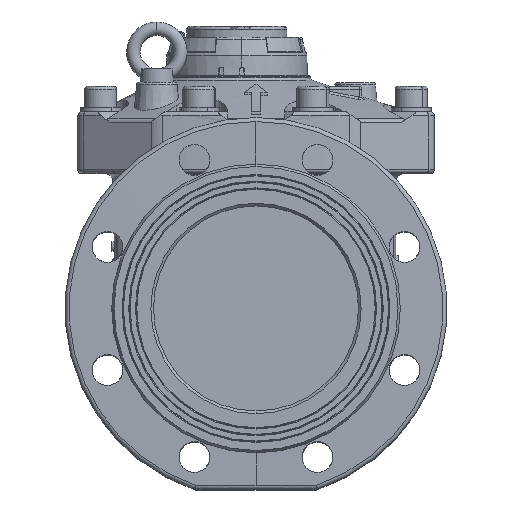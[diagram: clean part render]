
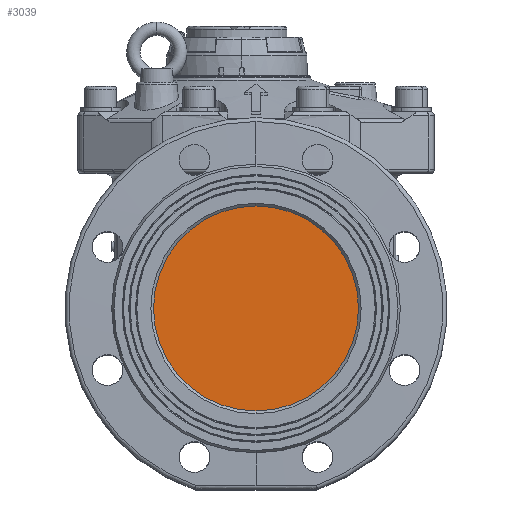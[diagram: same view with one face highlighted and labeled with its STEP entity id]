
A CAD part, top view. The second image highlights one B-rep face of the part: STEP entity #3039.
In plain terms, the highlighted planar face has unit normal (0, 0, 1).
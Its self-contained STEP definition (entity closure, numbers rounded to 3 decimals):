
#603 = CARTESIAN_POINT ( 'NONE',  ( 1.5, 0., 148. ) ) ;
#3039 = ADVANCED_FACE ( 'NONE', ( #6983 ), #69881, .F. ) ;
#6983 = FACE_OUTER_BOUND ( 'NONE', #16235, .T. ) ;
#11892 = DIRECTION ( 'NONE',  ( 0., -1., 0. ) ) ;
#16235 = EDGE_LOOP ( 'NONE', ( #77809, #99914 ) ) ;
#19161 = AXIS2_PLACEMENT_3D ( 'NONE', #30292, #84939, #77679 ) ;
#22711 = CARTESIAN_POINT ( 'NONE',  ( 1.5, 76.5, 148. ) ) ;
#30292 = CARTESIAN_POINT ( 'NONE',  ( 1.5, 0., 148. ) ) ;
#33969 = EDGE_CURVE ( 'NONE', #54238, #82753, #102473, .T. ) ;
#43390 = EDGE_CURVE ( 'NONE', #82753, #54238, #61653, .T. ) ;
#46329 = DIRECTION ( 'NONE',  ( 0., 0., 1. ) ) ;
#54238 = VERTEX_POINT ( 'NONE', #83846 ) ;
#61653 = CIRCLE ( 'NONE', #88236, 76.5 ) ;
#64033 = DIRECTION ( 'NONE',  ( 0., 0., 1. ) ) ;
#69881 = PLANE ( 'NONE',  #19161 ) ;
#70226 = CARTESIAN_POINT ( 'NONE',  ( 1.5, 0., 148. ) ) ;
#77679 = DIRECTION ( 'NONE',  ( 0., 1., 0. ) ) ;
#77809 = ORIENTED_EDGE ( 'NONE', *, *, #33969, .T. ) ;
#82753 = VERTEX_POINT ( 'NONE', #22711 ) ;
#83846 = CARTESIAN_POINT ( 'NONE',  ( 1.5, -76.5, 148. ) ) ;
#84939 = DIRECTION ( 'NONE',  ( 0., 0., -1. ) ) ;
#88236 = AXIS2_PLACEMENT_3D ( 'NONE', #70226, #46329, #101896 ) ;
#99914 = ORIENTED_EDGE ( 'NONE', *, *, #43390, .T. ) ;
#101896 = DIRECTION ( 'NONE',  ( 0., -1., 0. ) ) ;
#102473 = CIRCLE ( 'NONE', #102542, 76.5 ) ;
#102542 = AXIS2_PLACEMENT_3D ( 'NONE', #603, #64033, #11892 ) ;
